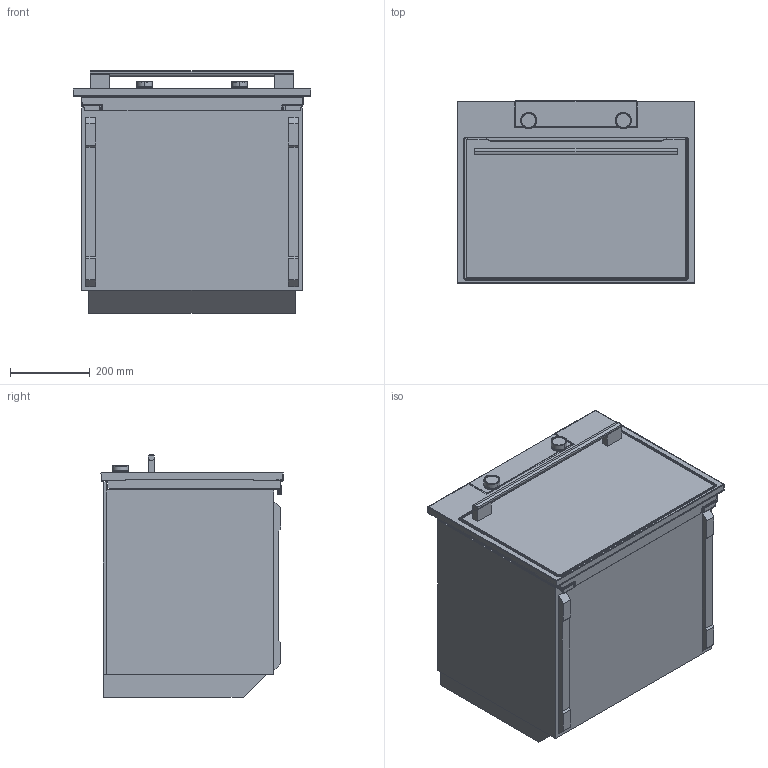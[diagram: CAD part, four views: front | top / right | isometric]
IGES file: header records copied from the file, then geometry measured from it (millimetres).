
Start section: SolidWorks IGES file using analytic representation for surfaces
Global section: file name: E:\3D za kuhinjaše\3D za kuhinjaše-ASKO\503326_OCM8487S\503326_OCM8487S\503326_OCM8487S.IGS; native system: SolidWorks 2016; preprocessor: SolidWorks 2016; author: kristijan.lamesic; date: 170914.083948; units: millimetre
Bounding box: 597 x 457.9 x 610.67 mm (x, y, z)
Surface area: 2978421.2 mm2 (no closed solid volume)
Topology: 0 solids, 0 shells, 528 faces, 5525 edges, 5521 vertices
Faces by surface type: bspline 312, revolution 216
